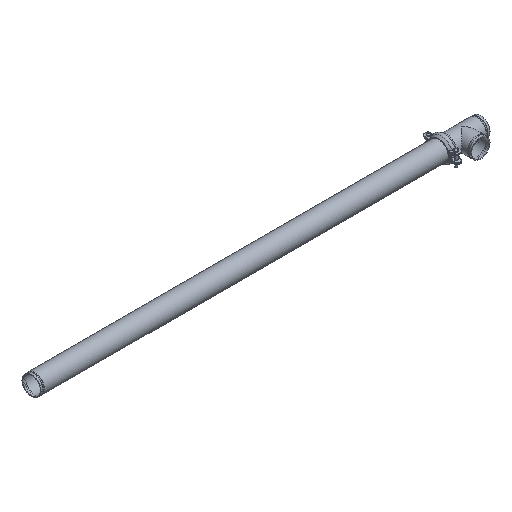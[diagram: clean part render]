
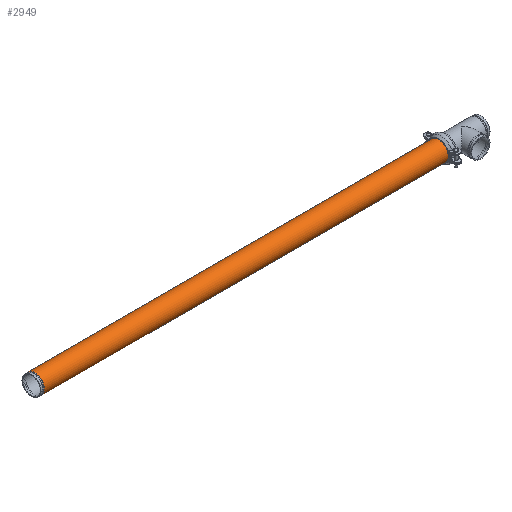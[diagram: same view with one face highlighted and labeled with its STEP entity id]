
A CAD part, isometric view. The second image highlights one B-rep face of the part: STEP entity #2949.
In plain terms, the highlighted cylindrical face has radius 70.65 mm (diameter 141.3 mm), a full revolution.
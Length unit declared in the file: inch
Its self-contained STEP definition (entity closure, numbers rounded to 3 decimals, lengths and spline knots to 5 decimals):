
#381=FACE_OUTER_BOUND('',#564,.T.);
#564=EDGE_LOOP('',(#2534,#2535,#2536,#2537,#2538,#2539));
#749=LINE('',#5743,#926);
#926=VECTOR('',#4212,2.7815);
#1065=CIRCLE('',#3370,2.7815);
#1066=CIRCLE('',#3371,2.7815);
#1067=CIRCLE('',#3373,2.7815);
#1068=CIRCLE('',#3374,2.7815);
#1341=VERTEX_POINT('',#5734);
#1342=VERTEX_POINT('',#5735);
#1343=VERTEX_POINT('',#5739);
#1344=VERTEX_POINT('',#5740);
#1743=EDGE_CURVE('',#1341,#1342,#1065,.T.);
#1744=EDGE_CURVE('',#1342,#1341,#1066,.T.);
#1745=EDGE_CURVE('',#1343,#1344,#1067,.T.);
#1746=EDGE_CURVE('',#1344,#1343,#1068,.T.);
#1747=EDGE_CURVE('',#1344,#1342,#749,.T.);
#2534=ORIENTED_EDGE('',*,*,#1745,.F.);
#2535=ORIENTED_EDGE('',*,*,#1746,.F.);
#2536=ORIENTED_EDGE('',*,*,#1747,.T.);
#2537=ORIENTED_EDGE('',*,*,#1744,.T.);
#2538=ORIENTED_EDGE('',*,*,#1743,.T.);
#2539=ORIENTED_EDGE('',*,*,#1747,.F.);
#2638=CYLINDRICAL_SURFACE('',#3372,2.7815);
#2949=ADVANCED_FACE('',(#381),#2638,.T.);
#3370=AXIS2_PLACEMENT_3D('',#5736,#4202,#4203);
#3371=AXIS2_PLACEMENT_3D('',#5737,#4204,#4205);
#3372=AXIS2_PLACEMENT_3D('',#5738,#4206,#4207);
#3373=AXIS2_PLACEMENT_3D('',#5741,#4208,#4209);
#3374=AXIS2_PLACEMENT_3D('',#5742,#4210,#4211);
#4202=DIRECTION('center_axis',(1.,0.,0.));
#4203=DIRECTION('ref_axis',(0.,0.,-1.));
#4204=DIRECTION('center_axis',(1.,0.,0.));
#4205=DIRECTION('ref_axis',(0.,0.,-1.));
#4206=DIRECTION('center_axis',(1.,0.,0.));
#4207=DIRECTION('ref_axis',(0.,1.,0.));
#4208=DIRECTION('center_axis',(1.,0.,0.));
#4209=DIRECTION('ref_axis',(0.,0.,-1.));
#4210=DIRECTION('center_axis',(1.,0.,0.));
#4211=DIRECTION('ref_axis',(0.,0.,-1.));
#4212=DIRECTION('',(-1.,0.,0.));
#5734=CARTESIAN_POINT('',(-59.031,2.7815,0.));
#5735=CARTESIAN_POINT('',(-59.031,-2.7815,0.));
#5736=CARTESIAN_POINT('Origin',(-59.031,0.,0.));
#5737=CARTESIAN_POINT('Origin',(-59.031,0.,0.));
#5738=CARTESIAN_POINT('Origin',(0.,0.,0.));
#5739=CARTESIAN_POINT('',(59.031,2.7815,0.));
#5740=CARTESIAN_POINT('',(59.031,-2.7815,0.));
#5741=CARTESIAN_POINT('Origin',(59.031,0.,0.));
#5742=CARTESIAN_POINT('Origin',(59.031,0.,0.));
#5743=CARTESIAN_POINT('',(0.,-2.7815,0.));
